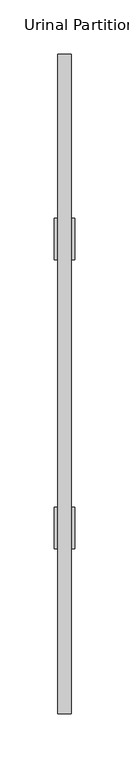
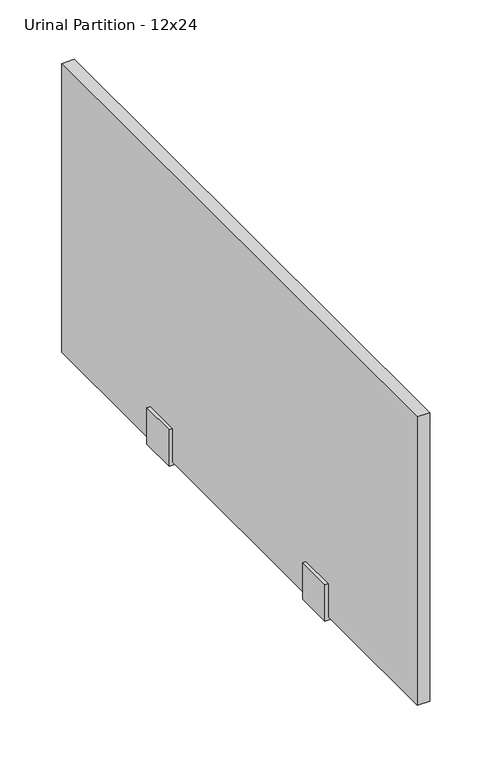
"""IFC4 building model written with IfcOpenShell, lengths in millimetres: proxy geometry, Urinal-Partition_Ironwood-Mfg : Urinal Partition - 12x24."""

from ifc_helpers import new_model, si_unit, frame, origin, place, context, project, spatial, polyline, outline, extrude, source, transform, mapped, element, save


def urinal_partition_12x24_2b7a6f32(model_context):
    return source(origin(), model_context, "Body", "SweptSolid", [
        extrude(outline(polyline([(38.1, 6.35), (3.175, 6.35), (3.175, -6.35), (38.1, -6.35), (38.1, -9.525), (0.0, -9.525), (0.0, 9.525), (38.1, 9.525), (38.1, 6.35)])), frame((0.0, 723.9, 0.0), z_axis=(0.0, 1.0, 0.0), x_axis=(0.0, 0.0, 1.0)), (0.0, 0.0, 1.0), 38.1),
        extrude(outline(polyline([(38.1, 6.35), (3.175, 6.35), (3.175, -6.35), (38.1, -6.35), (38.1, -9.525), (0.0, -9.525), (0.0, 9.525), (38.1, 9.525), (38.1, 6.35)])), frame((0.0, 457.2, 0.0), z_axis=(0.0, 1.0, 0.0), x_axis=(0.0, 0.0, 1.0)), (0.0, 0.0, 1.0), 38.1),
        extrude(outline(polyline([(-6.35, 304.8), (-6.35, 913.5614427), (6.35, 913.5614427), (6.35, 304.8), (-6.35, 304.8)])), frame((0.0, 0.0, 3.175), z_axis=(0.0, 0.0, 1.0), x_axis=(1.0, 0.0, 0.0)), (0.0, 0.0, 1.0), 301.625),
    ])


if __name__ == "__main__":
    model = new_model("IFC4")
    model_context = context("Model", 3, world=origin())
    ifc_project = project(units=[si_unit("LENGTHUNIT", "METRE", prefix="MILLI")], contexts=[model_context])
    site = spatial("IfcSite", under=ifc_project)
    building = spatial("IfcBuilding", under=site)
    placement = place(None, origin())
    urinal_partition_12x24_shape = urinal_partition_12x24_2b7a6f32(model_context)
    element("IfcBuildingElementProxy", 1, Name="Urinal-Partition_Ironwood-Mfg : Urinal Partition - 12x24", ObjectType="Urinal-Partition_Ironwood-Mfg : Urinal Partition - 12x24", at=placement, inside=building, context=model_context, shape_type="MappedRepresentation", body=[
        mapped(urinal_partition_12x24_shape, transform((0.0, 0.0, 0.0), x_axis=(1.0, 0.0, 0.0), y_axis=(0.0, 1.0, 0.0), z_axis=(0.0, 0.0, 1.0))),
    ])
    save(model, "model.ifc")
